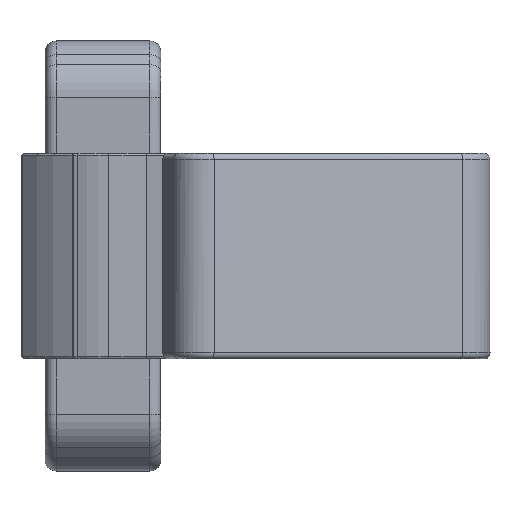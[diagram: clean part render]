
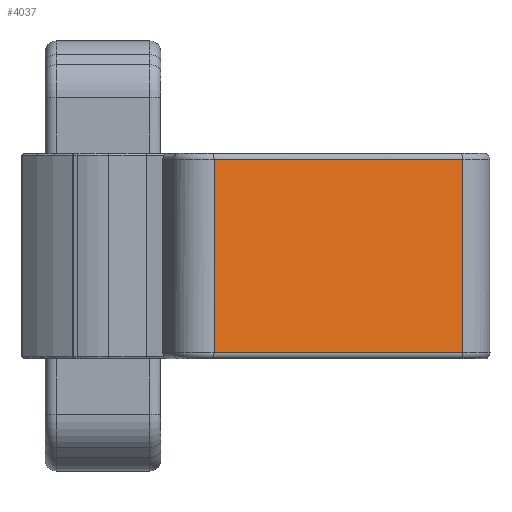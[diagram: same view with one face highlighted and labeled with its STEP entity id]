
A CAD part, left-side view. The second image highlights one B-rep face of the part: STEP entity #4037.
In plain terms, the highlighted planar face has unit normal (-0.946, -0.326, 0).
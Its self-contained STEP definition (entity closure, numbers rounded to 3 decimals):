
#378=PLANE('',#4401);
#566=FACE_OUTER_BOUND('',#811,.T.);
#811=EDGE_LOOP('',(#3454,#3455,#3456,#3457));
#988=LINE('',#9258,#1221);
#1072=LINE('',#10653,#1305);
#1073=LINE('',#10660,#1306);
#1221=VECTOR('',#4934,10.);
#1305=VECTOR('',#5236,10.);
#1306=VECTOR('',#5239,10.);
#1513=B_SPLINE_CURVE_WITH_KNOTS('',3,(#10656,#10657,#10658,#10659),
 .UNSPECIFIED.,.F.,.F.,(4,4),(0.426,2.216),
 .UNSPECIFIED.);
#1782=VERTEX_POINT('',#9250);
#1784=VERTEX_POINT('',#9256);
#1895=VERTEX_POINT('',#10647);
#1896=VERTEX_POINT('',#10655);
#2264=EDGE_CURVE('',#1784,#1782,#988,.T.);
#2454=EDGE_CURVE('',#1784,#1895,#1072,.T.);
#2455=EDGE_CURVE('',#1896,#1895,#1513,.T.);
#2456=EDGE_CURVE('',#1782,#1896,#1073,.T.);
#3454=ORIENTED_EDGE('',*,*,#2264,.F.);
#3455=ORIENTED_EDGE('',*,*,#2454,.T.);
#3456=ORIENTED_EDGE('',*,*,#2455,.F.);
#3457=ORIENTED_EDGE('',*,*,#2456,.F.);
#4037=ADVANCED_FACE('',(#566),#378,.T.);
#4401=AXIS2_PLACEMENT_3D('',#10654,#5237,#5238);
#4934=DIRECTION('',(-0.326,0.946,0.));
#5236=DIRECTION('',(0.,0.,1.));
#5237=DIRECTION('center_axis',(-0.946,-0.326,0.));
#5238=DIRECTION('ref_axis',(0.326,-0.946,0.));
#5239=DIRECTION('',(0.,0.,1.));
#9250=CARTESIAN_POINT('',(-2.984,-4.9,-20.989));
#9256=CARTESIAN_POINT('',(2.843,-21.825,-20.989));
#9258=CARTESIAN_POINT('',(-1.327,-9.714,-20.989));
#10647=CARTESIAN_POINT('',(2.843,-21.825,-7.789));
#10653=CARTESIAN_POINT('',(2.843,-21.825,-14.389));
#10654=CARTESIAN_POINT('Origin',(-2.984,-4.9,-14.389));
#10655=CARTESIAN_POINT('',(-2.984,-4.9,-7.789));
#10656=CARTESIAN_POINT('Ctrl Pts',(-2.984,-4.9,
-7.789));
#10657=CARTESIAN_POINT('Ctrl Pts',(-1.039,-10.55,-7.789));
#10658=CARTESIAN_POINT('Ctrl Pts',(0.897,-16.175,
-7.789));
#10659=CARTESIAN_POINT('Ctrl Pts',(2.843,-21.825,-7.789));
#10660=CARTESIAN_POINT('',(-2.984,-4.9,-14.389));
